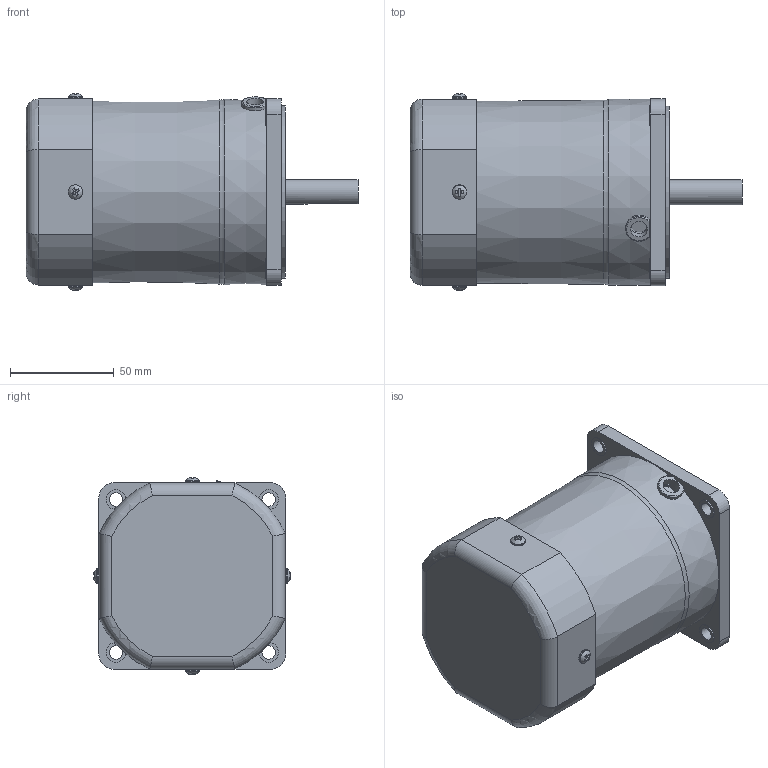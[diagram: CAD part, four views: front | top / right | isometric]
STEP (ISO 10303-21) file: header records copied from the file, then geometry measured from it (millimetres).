
FILE_DESCRIPTION((''),'2;1');
FILE_NAME('\\Spgrnd02\고객배포용도면\3D\Small Standard Series\AC MOTOR\60W MOTOR\S9I60K_.stp','2014-02-06T16:08:36',('jy-jung'),(''),'Autodesk Inventor 2011','Autodesk Inventor 2011','');
FILE_SCHEMA(('AUTOMOTIVE_DESIGN { 1 0 10303 214 1 1 1 1 }'));
Length unit declared in the file: millimetre
Products named in the file (1): 부품30
Bounding box: 159.8 x 94.63 x 94.65 mm (x, y, z)
Volume: 792895.7 mm3; surface area: 57987 mm2
Topology: 1 solids, 4 shells, 173 faces, 432 edges, 282 vertices
Faces by surface type: plane 105, cylinder 45, torus 14, cone 5, bspline 4
Full cylindrical faces by diameter (mm): 4 x3, 6.5 x4, 7 x4, 8 x1, 9.5 x4, 10 x1, 12 x1, 40 x1, 83 x1
Entity records: 5473 total; most frequent: CARTESIAN_POINT 1407, DIRECTION 759, ORIENTED_EDGE 756, EDGE_CURVE 378, AXIS2_PLACEMENT_3D 274, VERTEX_POINT 267, EDGE_LOOP 241, VECTOR 211
